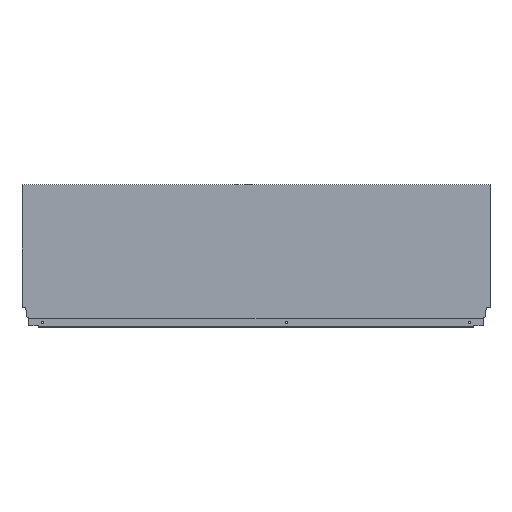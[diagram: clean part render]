
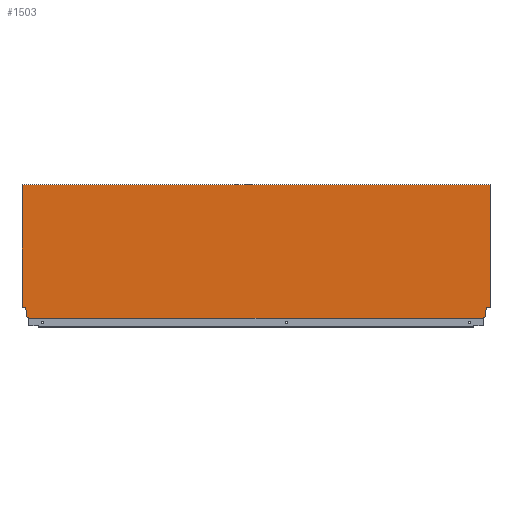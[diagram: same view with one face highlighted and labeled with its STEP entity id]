
A CAD part, top view. The second image highlights one B-rep face of the part: STEP entity #1503.
In plain terms, the highlighted planar face has unit normal (0, 0, 1).
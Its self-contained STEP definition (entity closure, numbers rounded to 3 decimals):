
#58 = EDGE_CURVE ( 'NONE', #922, #903, #452, .T. ) ;
#59 = EDGE_CURVE ( 'NONE', #1089, #808, #454, .T. ) ;
#60 = EDGE_CURVE ( 'NONE', #1014, #1089, #460, .T. ) ;
#61 = EDGE_CURVE ( 'NONE', #1078, #895, #462, .T. ) ;
#62 = EDGE_CURVE ( 'NONE', #807, #1078, #464, .T. ) ;
#70 = EDGE_CURVE ( 'NONE', #922, #895, #476, .T. ) ;
#97 = EDGE_CURVE ( 'NONE', #907, #1046, #531, .T. ) ;
#104 = EDGE_CURVE ( 'NONE', #813, #911, #545, .T. ) ;
#108 = EDGE_CURVE ( 'NONE', #813, #907, #528, .T. ) ;
#112 = EDGE_CURVE ( 'NONE', #808, #911, #544, .T. ) ;
#115 = EDGE_CURVE ( 'NONE', #1082, #1016, #559, .T. ) ;
#129 = EDGE_CURVE ( 'NONE', #1016, #1014, #585, .T. ) ;
#132 = EDGE_CURVE ( 'NONE', #903, #1082, #591, .T. ) ;
#141 = AXIS2_PLACEMENT_3D ( 'NONE', #1135, #1163, #1183 ) ;
#194 = EDGE_CURVE ( 'NONE', #1046, #807, #611, .T. ) ;
#452 = LINE ( 'NONE', #955, #456 ) ;
#454 = LINE ( 'NONE', #1069, #458 ) ;
#456 = VECTOR ( 'NONE', #976, 1000. ) ;
#458 = VECTOR ( 'NONE', #947, 1000. ) ;
#460 = LINE ( 'NONE', #1048, #461 ) ;
#461 = VECTOR ( 'NONE', #948, 1000. ) ;
#462 = LINE ( 'NONE', #1045, #463 ) ;
#463 = VECTOR ( 'NONE', #951, 1000. ) ;
#464 = LINE ( 'NONE', #1035, #465 ) ;
#465 = VECTOR ( 'NONE', #963, 1000. ) ;
#471 = VECTOR ( 'NONE', #972, 1000. ) ;
#476 = LINE ( 'NONE', #1105, #471 ) ;
#524 = VECTOR ( 'NONE', #1237, 1000. ) ;
#528 = LINE ( 'NONE', #1284, #524 ) ;
#531 = LINE ( 'NONE', #1280, #532 ) ;
#532 = VECTOR ( 'NONE', #1283, 1000. ) ;
#544 = LINE ( 'NONE', #1281, #552 ) ;
#545 = LINE ( 'NONE', #1414, #546 ) ;
#546 = VECTOR ( 'NONE', #1320, 1000. ) ;
#552 = VECTOR ( 'NONE', #1334, 1000. ) ;
#559 = LINE ( 'NONE', #1211, #560 ) ;
#560 = VECTOR ( 'NONE', #1335, 1000. ) ;
#585 = LINE ( 'NONE', #1297, #586 ) ;
#586 = VECTOR ( 'NONE', #1296, 1000. ) ;
#591 = LINE ( 'NONE', #1122, #592 ) ;
#592 = VECTOR ( 'NONE', #1453, 1000. ) ;
#611 = LINE ( 'NONE', #1339, #612 ) ;
#612 = VECTOR ( 'NONE', #1331, 1000. ) ;
#627 = FACE_OUTER_BOUND ( 'NONE', #767, .T. ) ;
#702 = ORIENTED_EDGE ( 'NONE', *, *, #58, .F. ) ;
#703 = ORIENTED_EDGE ( 'NONE', *, *, #70, .T. ) ;
#706 = ORIENTED_EDGE ( 'NONE', *, *, #194, .F. ) ;
#707 = ORIENTED_EDGE ( 'NONE', *, *, #62, .F. ) ;
#708 = ORIENTED_EDGE ( 'NONE', *, *, #61, .F. ) ;
#712 = ORIENTED_EDGE ( 'NONE', *, *, #104, .T. ) ;
#713 = ORIENTED_EDGE ( 'NONE', *, *, #108, .F. ) ;
#714 = ORIENTED_EDGE ( 'NONE', *, *, #97, .F. ) ;
#717 = ORIENTED_EDGE ( 'NONE', *, *, #112, .F. ) ;
#718 = ORIENTED_EDGE ( 'NONE', *, *, #60, .F. ) ;
#719 = ORIENTED_EDGE ( 'NONE', *, *, #59, .F. ) ;
#721 = ORIENTED_EDGE ( 'NONE', *, *, #129, .F. ) ;
#722 = ORIENTED_EDGE ( 'NONE', *, *, #115, .F. ) ;
#723 = ORIENTED_EDGE ( 'NONE', *, *, #132, .F. ) ;
#767 = EDGE_LOOP ( 'NONE', ( #703, #708, #707, #706, #714, #713, #712, #717, #719, #718, #721, #722, #723, #702 ) ) ;
#807 = VERTEX_POINT ( 'NONE', #1137 ) ;
#808 = VERTEX_POINT ( 'NONE', #1330 ) ;
#813 = VERTEX_POINT ( 'NONE', #1168 ) ;
#895 = VERTEX_POINT ( 'NONE', #1282 ) ;
#903 = VERTEX_POINT ( 'NONE', #1275 ) ;
#907 = VERTEX_POINT ( 'NONE', #1276 ) ;
#911 = VERTEX_POINT ( 'NONE', #1278 ) ;
#912 = CARTESIAN_POINT ( 'NONE',  ( -904.1, 2.64, 8. ) ) ;
#922 = VERTEX_POINT ( 'NONE', #1288 ) ;
#947 = DIRECTION ( 'NONE',  ( -0.94, -0.342, 0. ) ) ;
#948 = DIRECTION ( 'NONE',  ( 0., -1., 0. ) ) ;
#951 = DIRECTION ( 'NONE',  ( -1., 0., 0. ) ) ;
#955 = CARTESIAN_POINT ( 'NONE',  ( -913., 260.7, 8. ) ) ;
#963 = DIRECTION ( 'NONE',  ( -0.174, 0.985, 0. ) ) ;
#972 = DIRECTION ( 'NONE',  ( 0., -1., 0. ) ) ;
#976 = DIRECTION ( 'NONE',  ( 1., 0., 0. ) ) ;
#1014 = VERTEX_POINT ( 'NONE', #1300 ) ;
#1016 = VERTEX_POINT ( 'NONE', #1301 ) ;
#1035 = CARTESIAN_POINT ( 'NONE',  ( -905.94, 21.2, 8. ) ) ;
#1045 = CARTESIAN_POINT ( 'NONE',  ( -918., 21.2, 8. ) ) ;
#1046 = VERTEX_POINT ( 'NONE', #912 ) ;
#1048 = CARTESIAN_POINT ( 'NONE',  ( -8.9, 10.765, 8. ) ) ;
#1069 = CARTESIAN_POINT ( 'NONE',  ( -8.9, 2.64, 8. ) ) ;
#1078 = VERTEX_POINT ( 'NONE', #1106 ) ;
#1082 = VERTEX_POINT ( 'NONE', #1144 ) ;
#1089 = VERTEX_POINT ( 'NONE', #1141 ) ;
#1105 = CARTESIAN_POINT ( 'NONE',  ( -913., 0., 8. ) ) ;
#1106 = CARTESIAN_POINT ( 'NONE',  ( -905.94, 21.2, 8. ) ) ;
#1122 = CARTESIAN_POINT ( 'NONE',  ( 0., 0., 8. ) ) ;
#1135 = CARTESIAN_POINT ( 'NONE',  ( -913., 0., 8. ) ) ;
#1137 = CARTESIAN_POINT ( 'NONE',  ( -904.1, 10.765, 8. ) ) ;
#1141 = CARTESIAN_POINT ( 'NONE',  ( -8.9, 2.64, 8. ) ) ;
#1144 = CARTESIAN_POINT ( 'NONE',  ( 0., 21.2, 8. ) ) ;
#1163 = DIRECTION ( 'NONE',  ( 0., 0., 1. ) ) ;
#1166 = PLANE ( 'NONE',  #141 ) ;
#1168 = CARTESIAN_POINT ( 'NONE',  ( -899.996, 0., 8. ) ) ;
#1183 = DIRECTION ( 'NONE',  ( 1., 0., 0. ) ) ;
#1211 = CARTESIAN_POINT ( 'NONE',  ( 0., 21.2, 8. ) ) ;
#1237 = DIRECTION ( 'NONE',  ( 0., 1., 0. ) ) ;
#1275 = CARTESIAN_POINT ( 'NONE',  ( 0., 260.7, 8. ) ) ;
#1276 = CARTESIAN_POINT ( 'NONE',  ( -899.996, 1.146, 8. ) ) ;
#1278 = CARTESIAN_POINT ( 'NONE',  ( -13.004, 0., 8. ) ) ;
#1280 = CARTESIAN_POINT ( 'NONE',  ( -904.1, 2.64, 8. ) ) ;
#1281 = CARTESIAN_POINT ( 'NONE',  ( -13.004, 1.146, 8. ) ) ;
#1282 = CARTESIAN_POINT ( 'NONE',  ( -913., 21.2, 8. ) ) ;
#1283 = DIRECTION ( 'NONE',  ( -0.94, 0.342, 0. ) ) ;
#1284 = CARTESIAN_POINT ( 'NONE',  ( -899.996, 1.146, 8. ) ) ;
#1288 = CARTESIAN_POINT ( 'NONE',  ( -913., 260.7, 8. ) ) ;
#1296 = DIRECTION ( 'NONE',  ( -0.174, -0.985, 0. ) ) ;
#1297 = CARTESIAN_POINT ( 'NONE',  ( -7.06, 21.2, 8. ) ) ;
#1300 = CARTESIAN_POINT ( 'NONE',  ( -8.9, 10.765, 8. ) ) ;
#1301 = CARTESIAN_POINT ( 'NONE',  ( -7.06, 21.2, 8. ) ) ;
#1320 = DIRECTION ( 'NONE',  ( 1., 0., 0. ) ) ;
#1330 = CARTESIAN_POINT ( 'NONE',  ( -13.004, 1.146, 8. ) ) ;
#1331 = DIRECTION ( 'NONE',  ( 0., 1., 0. ) ) ;
#1334 = DIRECTION ( 'NONE',  ( 0., -1., 0. ) ) ;
#1335 = DIRECTION ( 'NONE',  ( -1., 0., 0. ) ) ;
#1339 = CARTESIAN_POINT ( 'NONE',  ( -904.1, 10.765, 8. ) ) ;
#1414 = CARTESIAN_POINT ( 'NONE',  ( -913., 0., 8. ) ) ;
#1453 = DIRECTION ( 'NONE',  ( 0., -1., 0. ) ) ;
#1503 = ADVANCED_FACE ( 'NONE', ( #627 ), #1166, .T. ) ;
